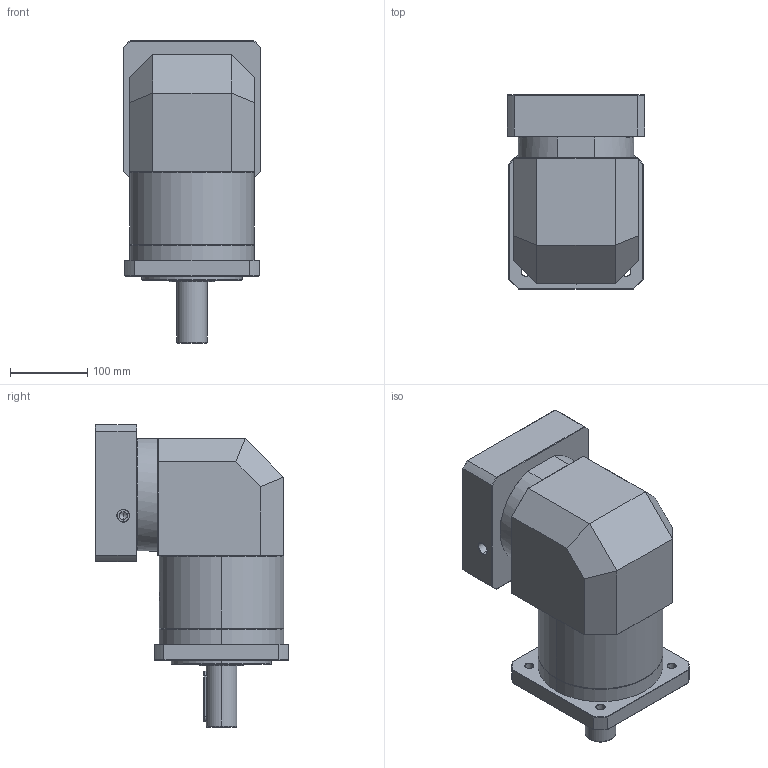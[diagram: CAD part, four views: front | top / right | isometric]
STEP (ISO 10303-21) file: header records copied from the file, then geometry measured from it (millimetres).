
FILE_DESCRIPTION (( 'STEP AP214' ), '1' );
FILE_NAME ('ZFR160A-D40-L2-P2-32-150-185-M10.step', '2023-09-03T08:58:20', ( '' ), ( '' ), 'SwSTEP 2.0', 'SolidWorks 2016', '' );
FILE_SCHEMA (( 'AUTOMOTIVE_DESIGN' ));
Length unit declared in the file: millimetre
Products named in the file (1): ZFR160A-D40-L2-P2-32-150-185-M10
Bounding box: 178 x 251.5 x 392.7 mm (x, y, z)
Volume: 7974298.9 mm3; surface area: 489993.9 mm2
Topology: 6 solids, 6 shells, 2203 faces, 5807 edges, 3712 vertices
Faces by surface type: plane 1046, bspline 414, cylinder 414, cone 307, torus 22
Entity records: 126354 total; most frequent: CARTESIAN_POINT 53100, ORIENTED_EDGE 11554, DIRECTION 8344, EDGE_CURVE 5777, VERTEX_POINT 3712, VECTOR 3086, LINE 3086, AXIS2_PLACEMENT_3D 2629
